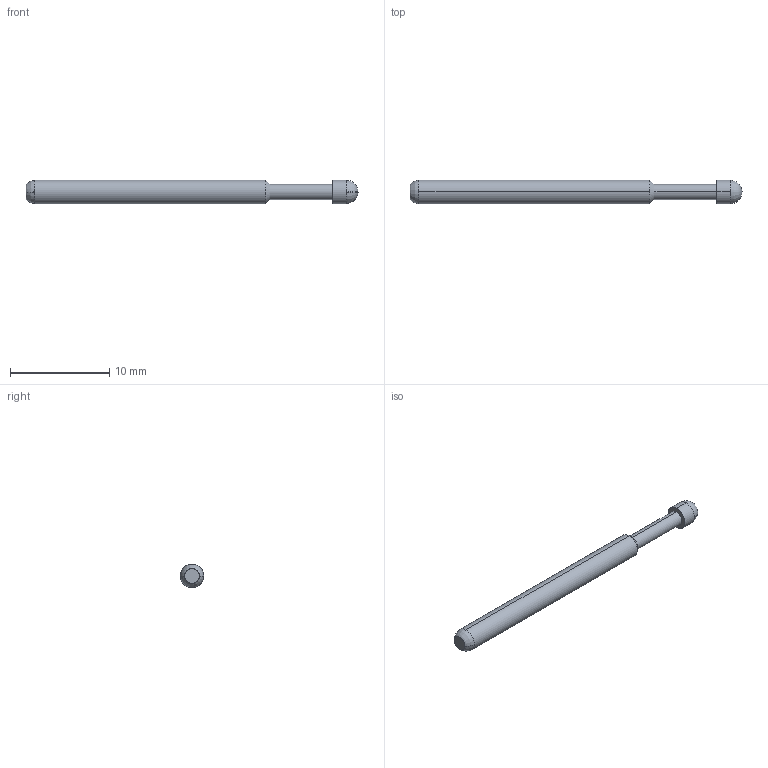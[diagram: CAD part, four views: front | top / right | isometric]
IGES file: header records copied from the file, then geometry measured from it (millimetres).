
Start section: SolidWorks IGES file using analytic representation for surfaces
Global section: file name: Z:\probe solid model mockups\Solidworks models\IGES Files\EPA-4 IGES files\EPA-4D.IGS; native system: SolidWorks 2006 by SolidWorks Corporation; preprocessor: SolidWorks 2006 by SolidWorks Corporation; author: tsakatani; date: 080103.104217; units: inch
Bounding box: 33.53 x 2.36 x 2.36 mm (x, y, z)
Surface area: 237 mm2 (no closed solid volume)
Topology: 0 solids, 0 shells, 14 faces, 120 edges, 118 vertices
Faces by surface type: revolution 12, bspline 2
